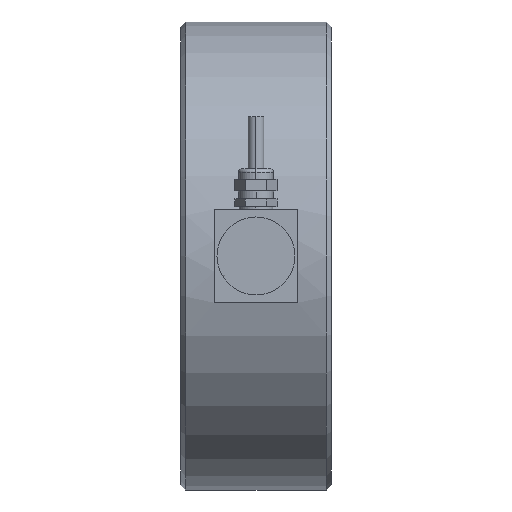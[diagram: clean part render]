
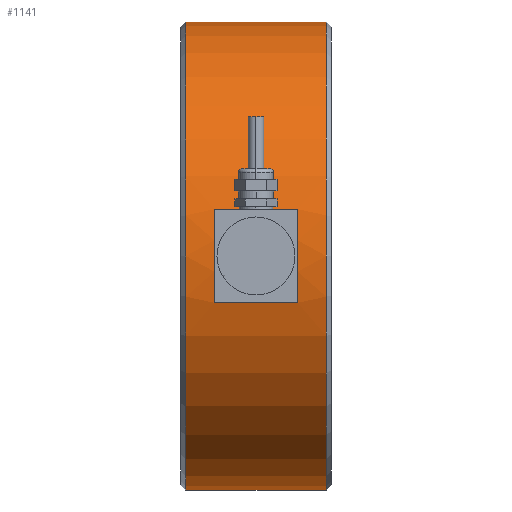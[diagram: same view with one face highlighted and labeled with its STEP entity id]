
A CAD part, left-side view. The second image highlights one B-rep face of the part: STEP entity #1141.
In plain terms, the highlighted cylindrical face has radius 90 mm (diameter 180 mm), a partial arc.
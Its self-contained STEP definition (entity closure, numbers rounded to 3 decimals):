
#6 = DIRECTION ( 'NONE',  ( 0., 0., 1. ) ) ;
#34 = DIRECTION ( 'NONE',  ( 0., -1., 0. ) ) ;
#53 = CIRCLE ( 'NONE', #2543, 90. ) ;
#65 = DIRECTION ( 'NONE',  ( 0., 1., 0. ) ) ;
#139 = ORIENTED_EDGE ( 'NONE', *, *, #143, .F. ) ;
#143 = EDGE_CURVE ( 'NONE', #1476, #487, #1508, .T. ) ;
#172 = CARTESIAN_POINT ( 'NONE',  ( -88.182, 13., 18. ) ) ;
#202 = DIRECTION ( 'NONE',  ( 0., 0., -1. ) ) ;
#230 = VERTEX_POINT ( 'NONE', #172 ) ;
#235 = CARTESIAN_POINT ( 'NONE',  ( 0., 56., -90. ) ) ;
#241 = AXIS2_PLACEMENT_3D ( 'NONE', #1021, #34, #202 ) ;
#305 = EDGE_CURVE ( 'NONE', #939, #2550, #837, .T. ) ;
#354 = EDGE_CURVE ( 'NONE', #230, #939, #422, .T. ) ;
#379 = ORIENTED_EDGE ( 'NONE', *, *, #512, .F. ) ;
#396 = CARTESIAN_POINT ( 'NONE',  ( 0., 45., 0. ) ) ;
#401 = EDGE_CURVE ( 'NONE', #1476, #2015, #1363, .T. ) ;
#413 = ORIENTED_EDGE ( 'NONE', *, *, #305, .F. ) ;
#422 = LINE ( 'NONE', #2243, #1690 ) ;
#427 = CARTESIAN_POINT ( 'NONE',  ( -88.182, 0., -18. ) ) ;
#487 = VERTEX_POINT ( 'NONE', #497 ) ;
#497 = CARTESIAN_POINT ( 'NONE',  ( 0., 2., 90. ) ) ;
#512 = EDGE_CURVE ( 'NONE', #1811, #230, #2272, .T. ) ;
#514 = DIRECTION ( 'NONE',  ( 0., -1., 0. ) ) ;
#598 = EDGE_LOOP ( 'NONE', ( #139, #1399, #1181, #2246 ) ) ;
#614 = DIRECTION ( 'NONE',  ( 0., 1., 0. ) ) ;
#670 = DIRECTION ( 'NONE',  ( 0., -1., 0. ) ) ;
#729 = DIRECTION ( 'NONE',  ( 0., 1., 0. ) ) ;
#794 = ORIENTED_EDGE ( 'NONE', *, *, #1085, .T. ) ;
#819 = LINE ( 'NONE', #427, #1658 ) ;
#837 = CIRCLE ( 'NONE', #1170, 90. ) ;
#853 = FACE_OUTER_BOUND ( 'NONE', #598, .T. ) ;
#854 = EDGE_LOOP ( 'NONE', ( #379, #794, #413, #966 ) ) ;
#860 = EDGE_CURVE ( 'NONE', #2015, #1232, #1666, .T. ) ;
#933 = CARTESIAN_POINT ( 'NONE',  ( 0., 0., 90. ) ) ;
#939 = VERTEX_POINT ( 'NONE', #2558 ) ;
#966 = ORIENTED_EDGE ( 'NONE', *, *, #354, .F. ) ;
#968 = VECTOR ( 'NONE', #514, 1000. ) ;
#1021 = CARTESIAN_POINT ( 'NONE',  ( 0., 0., 0. ) ) ;
#1042 = CARTESIAN_POINT ( 'NONE',  ( 0., 56., 0. ) ) ;
#1085 = EDGE_CURVE ( 'NONE', #1811, #2550, #819, .T. ) ;
#1092 = CARTESIAN_POINT ( 'NONE',  ( 0., 0., -90. ) ) ;
#1141 = ADVANCED_FACE ( 'NONE', ( #853, #2011 ), #2219, .T. ) ;
#1170 = AXIS2_PLACEMENT_3D ( 'NONE', #396, #1980, #6 ) ;
#1181 = ORIENTED_EDGE ( 'NONE', *, *, #860, .T. ) ;
#1223 = CARTESIAN_POINT ( 'NONE',  ( 0., 2., 0. ) ) ;
#1232 = VERTEX_POINT ( 'NONE', #1511 ) ;
#1264 = CARTESIAN_POINT ( 'NONE',  ( -88.182, 45., -18. ) ) ;
#1288 = AXIS2_PLACEMENT_3D ( 'NONE', #2480, #729, #2064 ) ;
#1363 = CIRCLE ( 'NONE', #2259, 90. ) ;
#1399 = ORIENTED_EDGE ( 'NONE', *, *, #401, .T. ) ;
#1440 = DIRECTION ( 'NONE',  ( 0., 0., 1. ) ) ;
#1476 = VERTEX_POINT ( 'NONE', #1922 ) ;
#1508 = LINE ( 'NONE', #933, #968 ) ;
#1511 = CARTESIAN_POINT ( 'NONE',  ( 0., 2., -90. ) ) ;
#1644 = VECTOR ( 'NONE', #670, 1000. ) ;
#1658 = VECTOR ( 'NONE', #2390, 1000. ) ;
#1666 = LINE ( 'NONE', #1092, #1644 ) ;
#1690 = VECTOR ( 'NONE', #614, 1000. ) ;
#1811 = VERTEX_POINT ( 'NONE', #2084 ) ;
#1834 = DIRECTION ( 'NONE',  ( 0., -1., 0. ) ) ;
#1922 = CARTESIAN_POINT ( 'NONE',  ( 0., 56., 90. ) ) ;
#1980 = DIRECTION ( 'NONE',  ( 0., -1., 0. ) ) ;
#2011 = FACE_BOUND ( 'NONE', #854, .T. ) ;
#2015 = VERTEX_POINT ( 'NONE', #235 ) ;
#2016 = DIRECTION ( 'NONE',  ( 0., 0., -1. ) ) ;
#2064 = DIRECTION ( 'NONE',  ( 0., 0., -1. ) ) ;
#2084 = CARTESIAN_POINT ( 'NONE',  ( -88.182, 13., -18. ) ) ;
#2219 = CYLINDRICAL_SURFACE ( 'NONE', #241, 90. ) ;
#2243 = CARTESIAN_POINT ( 'NONE',  ( -88.182, 0., 18. ) ) ;
#2246 = ORIENTED_EDGE ( 'NONE', *, *, #2413, .T. ) ;
#2259 = AXIS2_PLACEMENT_3D ( 'NONE', #1042, #1834, #1440 ) ;
#2272 = CIRCLE ( 'NONE', #1288, 90. ) ;
#2390 = DIRECTION ( 'NONE',  ( 0., 1., 0. ) ) ;
#2413 = EDGE_CURVE ( 'NONE', #1232, #487, #53, .T. ) ;
#2480 = CARTESIAN_POINT ( 'NONE',  ( 0., 13., 0. ) ) ;
#2543 = AXIS2_PLACEMENT_3D ( 'NONE', #1223, #65, #2016 ) ;
#2550 = VERTEX_POINT ( 'NONE', #1264 ) ;
#2558 = CARTESIAN_POINT ( 'NONE',  ( -88.182, 45., 18. ) ) ;
